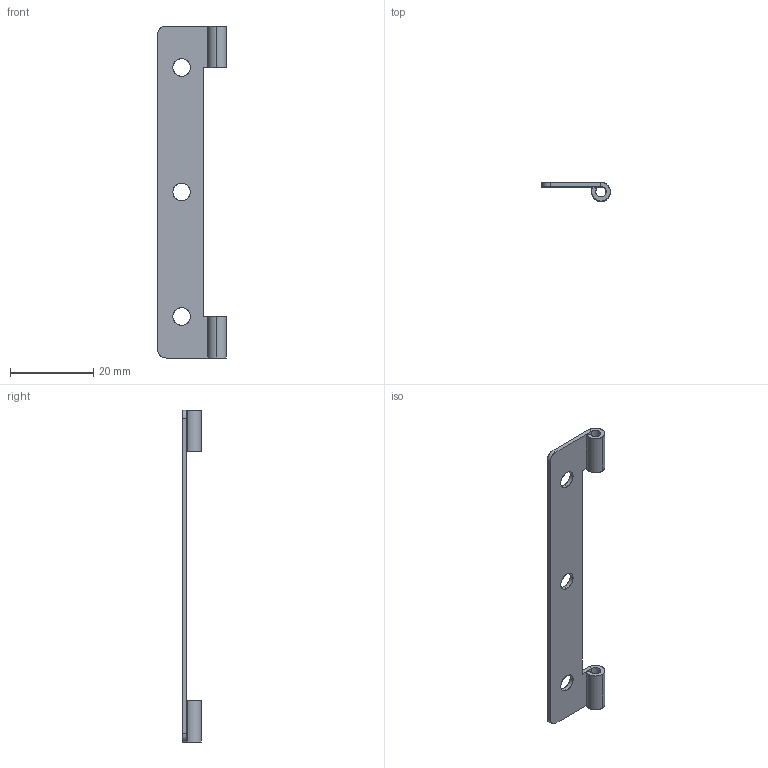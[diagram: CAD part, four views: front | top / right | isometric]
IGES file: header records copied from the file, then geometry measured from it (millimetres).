
Start section: SolidWorks IGES file using analytic representation for surfaces
Global section: file name: Z:\Mes documents\ATAO iges\Gamme CC\CC 473\473.010.10.IGS; native system: SolidWorks 2008; preprocessor: SolidWorks 2008; author: cbrechard; date: 110629.090103; units: millimetre
Bounding box: 16.5 x 4.5 x 80 mm (x, y, z)
Surface area: 2442.5 mm2 (no closed solid volume)
Topology: 0 solids, 0 shells, 30 faces, 536 edges, 536 vertices
Faces by surface type: revolution 16, bspline 14
